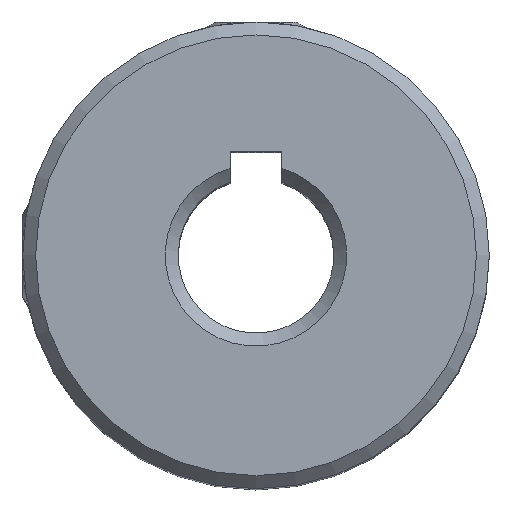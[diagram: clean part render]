
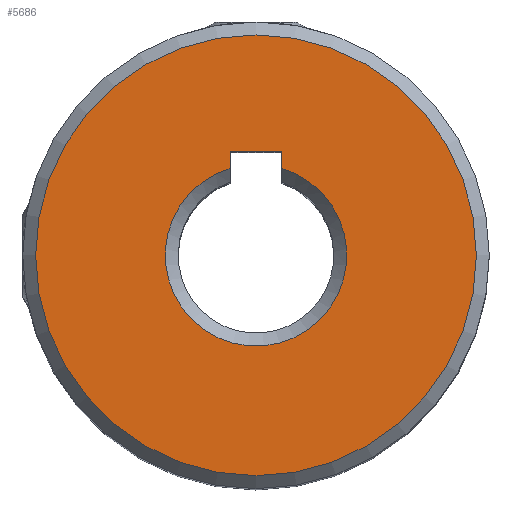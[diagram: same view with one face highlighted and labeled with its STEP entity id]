
A CAD part, top view. The second image highlights one B-rep face of the part: STEP entity #5686.
In plain terms, the highlighted planar face has unit normal (0, 0, 1).
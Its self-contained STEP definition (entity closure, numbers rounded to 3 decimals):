
#142 = CARTESIAN_POINT ( 'NONE',  ( -1., 3.354, 15. ) ) ;
#304 = VERTEX_POINT ( 'NONE', #860 ) ;
#359 = ORIENTED_EDGE ( 'NONE', *, *, #510, .T. ) ;
#510 = EDGE_CURVE ( 'NONE', #304, #304, #5900, .T. ) ;
#535 = DIRECTION ( 'NONE',  ( 0., 0., 1. ) ) ;
#560 = VERTEX_POINT ( 'NONE', #4442 ) ;
#613 = CARTESIAN_POINT ( 'NONE',  ( 1., 0., 15. ) ) ;
#786 = CARTESIAN_POINT ( 'NONE',  ( 0., 0., 15. ) ) ;
#806 = VECTOR ( 'NONE', #7321, 1000. ) ;
#860 = CARTESIAN_POINT ( 'NONE',  ( 8.5, 0., 15. ) ) ;
#1244 = LINE ( 'NONE', #613, #806 ) ;
#1397 = LINE ( 'NONE', #3092, #3133 ) ;
#1643 = EDGE_CURVE ( 'NONE', #560, #5832, #1397, .T. ) ;
#1982 = CARTESIAN_POINT ( 'NONE',  ( 0., 0., 15. ) ) ;
#2035 = CARTESIAN_POINT ( 'NONE',  ( 1., 4., 15. ) ) ;
#2279 = EDGE_CURVE ( 'NONE', #7859, #560, #7047, .T. ) ;
#2502 = DIRECTION ( 'NONE',  ( 0., 0., 1. ) ) ;
#2546 = DIRECTION ( 'NONE',  ( 1., 0., 0. ) ) ;
#2795 = CARTESIAN_POINT ( 'NONE',  ( 0., 4., 15. ) ) ;
#2876 = EDGE_CURVE ( 'NONE', #5386, #7859, #1244, .T. ) ;
#2895 = AXIS2_PLACEMENT_3D ( 'NONE', #7159, #535, #6115 ) ;
#3092 = CARTESIAN_POINT ( 'NONE',  ( -1., 0., 15. ) ) ;
#3133 = VECTOR ( 'NONE', #3179, 1000. ) ;
#3179 = DIRECTION ( 'NONE',  ( 0., -1., 0. ) ) ;
#3243 = DIRECTION ( 'NONE',  ( 0., 0., -1. ) ) ;
#3493 = AXIS2_PLACEMENT_3D ( 'NONE', #1982, #2502, #2546 ) ;
#4442 = CARTESIAN_POINT ( 'NONE',  ( -1., 4., 15. ) ) ;
#4460 = CIRCLE ( 'NONE', #6889, 3.5 ) ;
#4589 = VECTOR ( 'NONE', #5173, 1000. ) ;
#4643 = FACE_OUTER_BOUND ( 'NONE', #6729, .T. ) ;
#4948 = ORIENTED_EDGE ( 'NONE', *, *, #2279, .F. ) ;
#5138 = ORIENTED_EDGE ( 'NONE', *, *, #7500, .T. ) ;
#5173 = DIRECTION ( 'NONE',  ( -1., 0., 0. ) ) ;
#5386 = VERTEX_POINT ( 'NONE', #6050 ) ;
#5658 = DIRECTION ( 'NONE',  ( 1., 0., 0. ) ) ;
#5686 = ADVANCED_FACE ( 'NONE', ( #7682, #4643 ), #6393, .T. ) ;
#5832 = VERTEX_POINT ( 'NONE', #142 ) ;
#5900 = CIRCLE ( 'NONE', #3493, 8.5 ) ;
#6050 = CARTESIAN_POINT ( 'NONE',  ( 1., 3.354, 15. ) ) ;
#6115 = DIRECTION ( 'NONE',  ( 1., 0., 0. ) ) ;
#6393 = PLANE ( 'NONE',  #2895 ) ;
#6729 = EDGE_LOOP ( 'NONE', ( #359 ) ) ;
#6881 = EDGE_LOOP ( 'NONE', ( #7842, #4948, #7348, #5138 ) ) ;
#6889 = AXIS2_PLACEMENT_3D ( 'NONE', #786, #3243, #5658 ) ;
#7047 = LINE ( 'NONE', #2795, #4589 ) ;
#7159 = CARTESIAN_POINT ( 'NONE',  ( 0., 0., 15. ) ) ;
#7321 = DIRECTION ( 'NONE',  ( 0., 1., 0. ) ) ;
#7348 = ORIENTED_EDGE ( 'NONE', *, *, #2876, .F. ) ;
#7500 = EDGE_CURVE ( 'NONE', #5386, #5832, #4460, .T. ) ;
#7682 = FACE_BOUND ( 'NONE', #6881, .T. ) ;
#7842 = ORIENTED_EDGE ( 'NONE', *, *, #1643, .F. ) ;
#7859 = VERTEX_POINT ( 'NONE', #2035 ) ;
